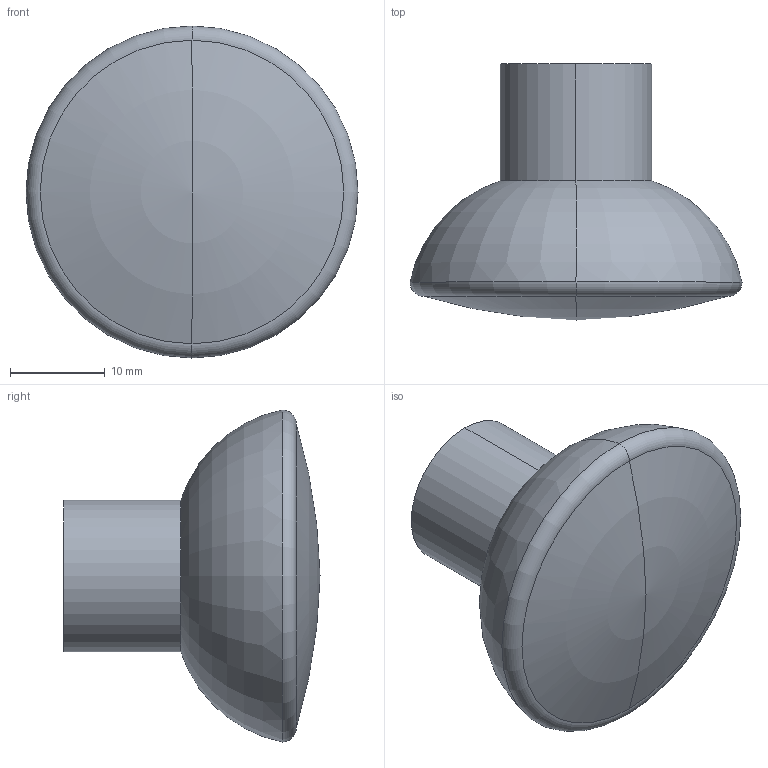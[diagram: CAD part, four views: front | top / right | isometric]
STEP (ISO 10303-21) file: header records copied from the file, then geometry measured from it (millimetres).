
FILE_DESCRIPTION( ( '' ), '1' );
FILE_NAME( 'C:/Documents and Settings/Nikhil/Desktop/Nik/Done/9112644.stp', '2013-10-23T11:40:05', ( '' ), ( '' ), ' ', ' ', ' ' );
FILE_SCHEMA( ( 'automotive_design' ) );
Length unit declared in the file: millimetre
Products named in the file (1): 1
Bounding box: 35 x 27 x 35 mm (x, y, z)
Volume: 12010.4 mm3; surface area: 3285 mm2
Topology: 1 solids, 1 shells, 12 faces, 24 edges, 13 vertices
Faces by surface type: torus 6, cylinder 4, plane 2
Entity records: 599 total; most frequent: DIRECTION 66, STYLED_ITEM 48, PRESENTATION_STYLE_ASSIGNMENT 48, CARTESIAN_POINT 48, COLOUR_RGB 48, ORIENTED_EDGE 44, AXIS2_PLACEMENT_3D 31, EDGE_CURVE 22
